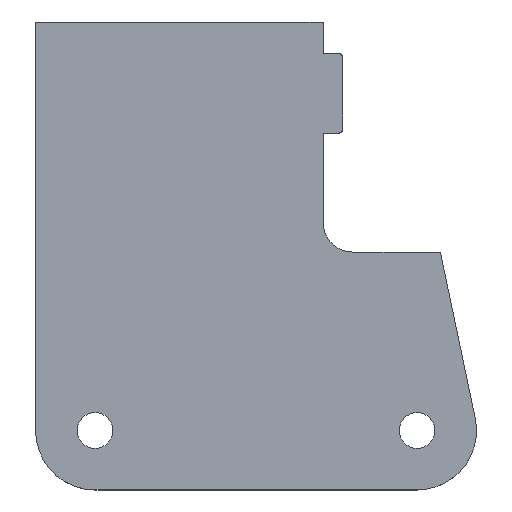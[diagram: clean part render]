
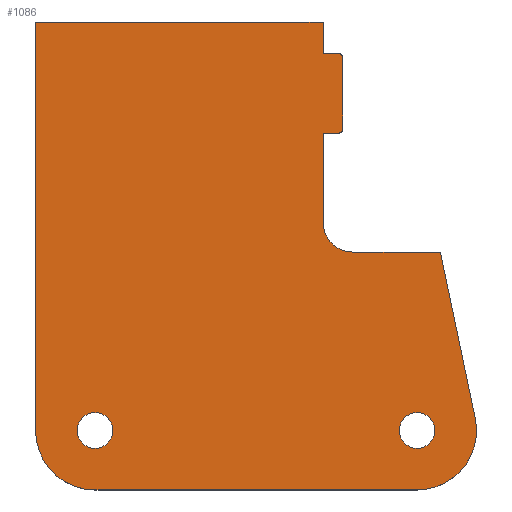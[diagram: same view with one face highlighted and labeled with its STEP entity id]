
A CAD part, top view. The second image highlights one B-rep face of the part: STEP entity #1086.
In plain terms, the highlighted planar face has unit normal (0, 0, 1).
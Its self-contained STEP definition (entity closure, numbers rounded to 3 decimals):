
#514=PLANE('',#1050);
#525=CIRCLE('',#1044,1.);
#526=CIRCLE('',#1048,7.5);
#528=CIRCLE('',#1051,1.);
#529=CIRCLE('',#1052,15.);
#530=CIRCLE('',#1053,15.);
#531=CIRCLE('',#1054,4.5);
#532=CIRCLE('',#1055,4.5);
#554=ORIENTED_EDGE('',*,*,#743,.T.);
#555=ORIENTED_EDGE('',*,*,#753,.F.);
#556=ORIENTED_EDGE('',*,*,#754,.F.);
#557=ORIENTED_EDGE('',*,*,#755,.T.);
#558=ORIENTED_EDGE('',*,*,#756,.F.);
#559=ORIENTED_EDGE('',*,*,#757,.F.);
#560=ORIENTED_EDGE('',*,*,#758,.T.);
#561=ORIENTED_EDGE('',*,*,#759,.F.);
#562=ORIENTED_EDGE('',*,*,#760,.F.);
#563=ORIENTED_EDGE('',*,*,#761,.T.);
#564=ORIENTED_EDGE('',*,*,#762,.F.);
#565=ORIENTED_EDGE('',*,*,#763,.T.);
#566=ORIENTED_EDGE('',*,*,#750,.F.);
#567=ORIENTED_EDGE('',*,*,#749,.F.);
#568=ORIENTED_EDGE('',*,*,#746,.F.);
#569=ORIENTED_EDGE('',*,*,#764,.F.);
#570=ORIENTED_EDGE('',*,*,#765,.F.);
#640=VECTOR('',#851,1.);
#643=VECTOR('',#856,1.);
#645=VECTOR('',#866,1.);
#646=VECTOR('',#869,1.);
#647=VECTOR('',#870,1.);
#648=VECTOR('',#871,1.);
#649=VECTOR('',#872,1.);
#650=VECTOR('',#875,1.);
#651=VECTOR('',#878,1.);
#652=VECTOR('',#879,1.);
#675=LINE('',#954,#640);
#678=LINE('',#960,#643);
#680=LINE('',#969,#645);
#681=LINE('',#973,#646);
#682=LINE('',#975,#647);
#683=LINE('',#977,#648);
#684=LINE('',#979,#649);
#685=LINE('',#983,#650);
#686=LINE('',#987,#651);
#687=LINE('',#988,#652);
#707=VERTEX_POINT('',#942);
#709=VERTEX_POINT('',#946);
#711=VERTEX_POINT('',#951);
#713=VERTEX_POINT('',#957);
#714=VERTEX_POINT('',#962);
#716=VERTEX_POINT('',#968);
#717=VERTEX_POINT('',#970);
#718=VERTEX_POINT('',#972);
#719=VERTEX_POINT('',#974);
#720=VERTEX_POINT('',#976);
#721=VERTEX_POINT('',#978);
#722=VERTEX_POINT('',#980);
#723=VERTEX_POINT('',#982);
#724=VERTEX_POINT('',#984);
#725=VERTEX_POINT('',#986);
#726=VERTEX_POINT('',#989);
#727=VERTEX_POINT('',#991);
#743=EDGE_CURVE('',#707,#709,#525,.T.);
#746=EDGE_CURVE('',#707,#711,#675,.T.);
#749=EDGE_CURVE('',#711,#713,#678,.T.);
#750=EDGE_CURVE('',#713,#714,#526,.T.);
#753=EDGE_CURVE('',#716,#709,#680,.T.);
#754=EDGE_CURVE('',#717,#716,#528,.T.);
#755=EDGE_CURVE('',#717,#718,#681,.T.);
#756=EDGE_CURVE('',#719,#718,#682,.T.);
#757=EDGE_CURVE('',#720,#719,#683,.T.);
#758=EDGE_CURVE('',#720,#721,#684,.T.);
#759=EDGE_CURVE('',#722,#721,#529,.T.);
#760=EDGE_CURVE('',#723,#722,#685,.T.);
#761=EDGE_CURVE('',#723,#724,#530,.T.);
#762=EDGE_CURVE('',#725,#724,#686,.T.);
#763=EDGE_CURVE('',#725,#714,#687,.T.);
#764=EDGE_CURVE('',#726,#726,#531,.T.);
#765=EDGE_CURVE('',#727,#727,#532,.T.);
#793=EDGE_LOOP('',(#554,#555,#556,#557,#558,#559,#560,#561,#562,#563,#564,
#565,#566,#567,#568));
#794=EDGE_LOOP('',(#569));
#795=EDGE_LOOP('',(#570));
#818=FACE_BOUND('',#793,.T.);
#819=FACE_BOUND('',#794,.T.);
#820=FACE_BOUND('',#795,.T.);
#845=DIRECTION('',(0.,0.,1.));
#846=DIRECTION('',(0.,1.,0.));
#851=DIRECTION('',(-4.,0.,0.));
#856=DIRECTION('',(0.,-22.5,0.));
#859=DIRECTION('',(0.,0.,1.));
#860=DIRECTION('',(0.,-7.5,0.));
#864=DIRECTION('',(0.,0.,1.));
#865=DIRECTION('',(0.,-1.,0.));
#866=DIRECTION('',(0.,-18.,0.));
#867=DIRECTION('',(0.,0.,-1.));
#868=DIRECTION('',(0.,-1.,0.));
#869=DIRECTION('',(-4.,0.,0.));
#870=DIRECTION('',(0.,-8.,0.));
#871=DIRECTION('',(72.5,0.,0.));
#872=DIRECTION('',(0.,-103.,0.));
#873=DIRECTION('',(0.,0.,-1.));
#874=DIRECTION('',(0.,-15.,0.));
#875=DIRECTION('',(-81.213,0.,0.));
#876=DIRECTION('',(0.,0.,1.));
#877=DIRECTION('',(0.,15.,0.));
#878=DIRECTION('',(8.79,-41.922,0.));
#879=DIRECTION('',(-22.104,0.,0.));
#880=DIRECTION('',(0.,0.,1.));
#881=DIRECTION('',(0.,-4.5,0.));
#882=DIRECTION('',(0.,0.,1.));
#883=DIRECTION('',(0.,-4.5,0.));
#942=CARTESIAN_POINT('',(6868.504,13816.36,8.));
#946=CARTESIAN_POINT('',(6869.504,13817.36,8.));
#948=CARTESIAN_POINT('',(6868.504,13817.36,8.));
#951=CARTESIAN_POINT('',(6864.504,13816.36,8.));
#954=CARTESIAN_POINT('',(6868.504,13816.36,8.));
#957=CARTESIAN_POINT('',(6864.504,13793.86,8.));
#960=CARTESIAN_POINT('',(6864.504,13816.36,8.));
#962=CARTESIAN_POINT('',(6872.004,13786.36,8.));
#963=CARTESIAN_POINT('',(6872.004,13793.86,8.));
#967=CARTESIAN_POINT('',(0.,0.,8.));
#968=CARTESIAN_POINT('',(6869.504,13835.36,8.));
#969=CARTESIAN_POINT('',(6869.504,13835.36,8.));
#970=CARTESIAN_POINT('',(6868.504,13836.36,8.));
#971=CARTESIAN_POINT('',(6868.504,13835.36,8.));
#972=CARTESIAN_POINT('',(6864.504,13836.36,8.));
#973=CARTESIAN_POINT('',(6868.504,13836.36,8.));
#974=CARTESIAN_POINT('',(6864.504,13844.36,8.));
#975=CARTESIAN_POINT('',(6864.504,13844.36,8.));
#976=CARTESIAN_POINT('',(6792.004,13844.36,8.));
#977=CARTESIAN_POINT('',(6792.004,13844.36,8.));
#978=CARTESIAN_POINT('',(6792.004,13741.36,8.));
#979=CARTESIAN_POINT('',(6792.004,13844.36,8.));
#980=CARTESIAN_POINT('',(6807.004,13726.36,8.));
#981=CARTESIAN_POINT('',(6807.004,13741.36,8.));
#982=CARTESIAN_POINT('',(6888.216,13726.36,8.));
#983=CARTESIAN_POINT('',(6888.216,13726.36,8.));
#984=CARTESIAN_POINT('',(6902.897,13744.438,8.));
#985=CARTESIAN_POINT('',(6888.216,13741.36,8.));
#986=CARTESIAN_POINT('',(6894.107,13786.36,8.));
#987=CARTESIAN_POINT('',(6894.107,13786.36,8.));
#988=CARTESIAN_POINT('',(6894.107,13786.36,8.));
#989=CARTESIAN_POINT('',(6807.004,13736.86,8.));
#990=CARTESIAN_POINT('',(6807.004,13741.36,8.));
#991=CARTESIAN_POINT('',(6888.216,13736.86,8.));
#992=CARTESIAN_POINT('',(6888.216,13741.36,8.));
#1044=AXIS2_PLACEMENT_3D('',#948,#845,#846);
#1048=AXIS2_PLACEMENT_3D('',#963,#859,#860);
#1050=AXIS2_PLACEMENT_3D('',#967,#864,#865);
#1051=AXIS2_PLACEMENT_3D('',#971,#867,#868);
#1052=AXIS2_PLACEMENT_3D('',#981,#873,#874);
#1053=AXIS2_PLACEMENT_3D('',#985,#876,#877);
#1054=AXIS2_PLACEMENT_3D('',#990,#880,#881);
#1055=AXIS2_PLACEMENT_3D('',#992,#882,#883);
#1086=ADVANCED_FACE('',(#818,#819,#820),#514,.T.);
